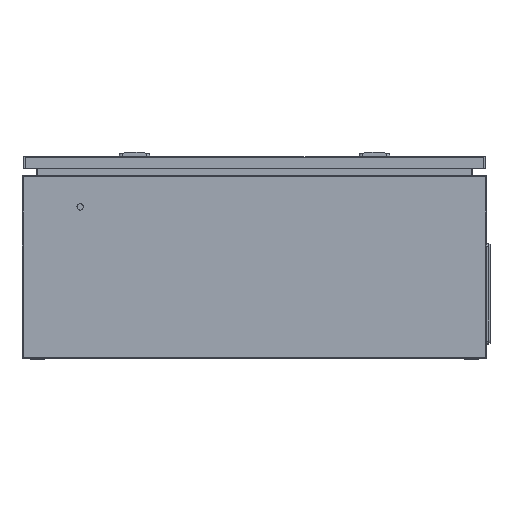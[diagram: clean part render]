
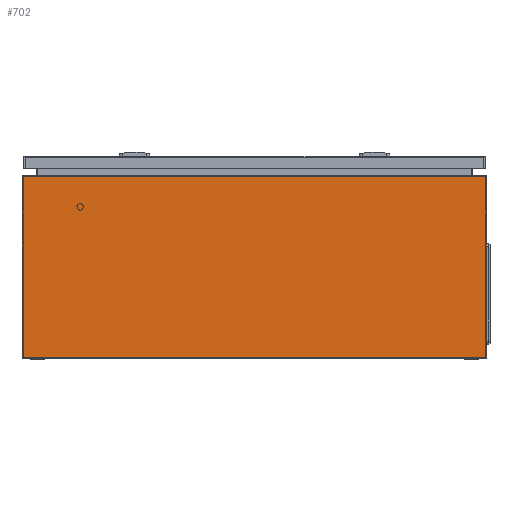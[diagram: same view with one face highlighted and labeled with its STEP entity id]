
A CAD part, left-side view. The second image highlights one B-rep face of the part: STEP entity #702.
In plain terms, the highlighted planar face has unit normal (-1, 0, 0).
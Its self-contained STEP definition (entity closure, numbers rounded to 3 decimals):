
#702 = ADVANCED_FACE( '', ( #1693 ), #1694, .F. );
#1693 = FACE_OUTER_BOUND( '', #3171, .T. );
#1694 = PLANE( '', #3172 );
#3171 = EDGE_LOOP( '', ( #4866, #4867, #4868, #4869 ) );
#3172 = AXIS2_PLACEMENT_3D( '', #4870, #4871, #4872 );
#4866 = ORIENTED_EDGE( '', *, *, #8403, .T. );
#4867 = ORIENTED_EDGE( '', *, *, #8404, .F. );
#4868 = ORIENTED_EDGE( '', *, *, #8405, .F. );
#4869 = ORIENTED_EDGE( '', *, *, #8406, .T. );
#4870 = CARTESIAN_POINT( '', ( -200., 600., -130. ) );
#4871 = DIRECTION( '', ( 1., 0., 0. ) );
#4872 = DIRECTION( '', ( 0., 0., -1. ) );
#8403 = EDGE_CURVE( '', #9976, #9977, #9978, .T. );
#8404 = EDGE_CURVE( '', #9979, #9977, #9980, .T. );
#8405 = EDGE_CURVE( '', #9981, #9979, #9982, .T. );
#8406 = EDGE_CURVE( '', #9981, #9976, #9983, .T. );
#9976 = VERTEX_POINT( '', #12289 );
#9977 = VERTEX_POINT( '', #12290 );
#9978 = LINE( '', #12291, #12292 );
#9979 = VERTEX_POINT( '', #12293 );
#9980 = LINE( '', #12294, #12295 );
#9981 = VERTEX_POINT( '', #12296 );
#9982 = LINE( '', #12297, #12298 );
#9983 = LINE( '', #12299, #12300 );
#12289 = CARTESIAN_POINT( '', ( -200., 0., -130. ) );
#12290 = CARTESIAN_POINT( '', ( -200., 0., 105.2 ) );
#12291 = CARTESIAN_POINT( '', ( -200., 0., -130. ) );
#12292 = VECTOR( '', #14831, 1000. );
#12293 = CARTESIAN_POINT( '', ( -200., 600., 105.2 ) );
#12294 = CARTESIAN_POINT( '', ( -200., 600., 105.2 ) );
#12295 = VECTOR( '', #14832, 1000. );
#12296 = CARTESIAN_POINT( '', ( -200., 600., -130. ) );
#12297 = CARTESIAN_POINT( '', ( -200., 600., -130. ) );
#12298 = VECTOR( '', #14833, 1000. );
#12299 = CARTESIAN_POINT( '', ( -200., 600., -130. ) );
#12300 = VECTOR( '', #14834, 1000. );
#14831 = DIRECTION( '', ( 0., 0., 1. ) );
#14832 = DIRECTION( '', ( 0., -1., 0. ) );
#14833 = DIRECTION( '', ( 0., 0., 1. ) );
#14834 = DIRECTION( '', ( 0., -1., 0. ) );
